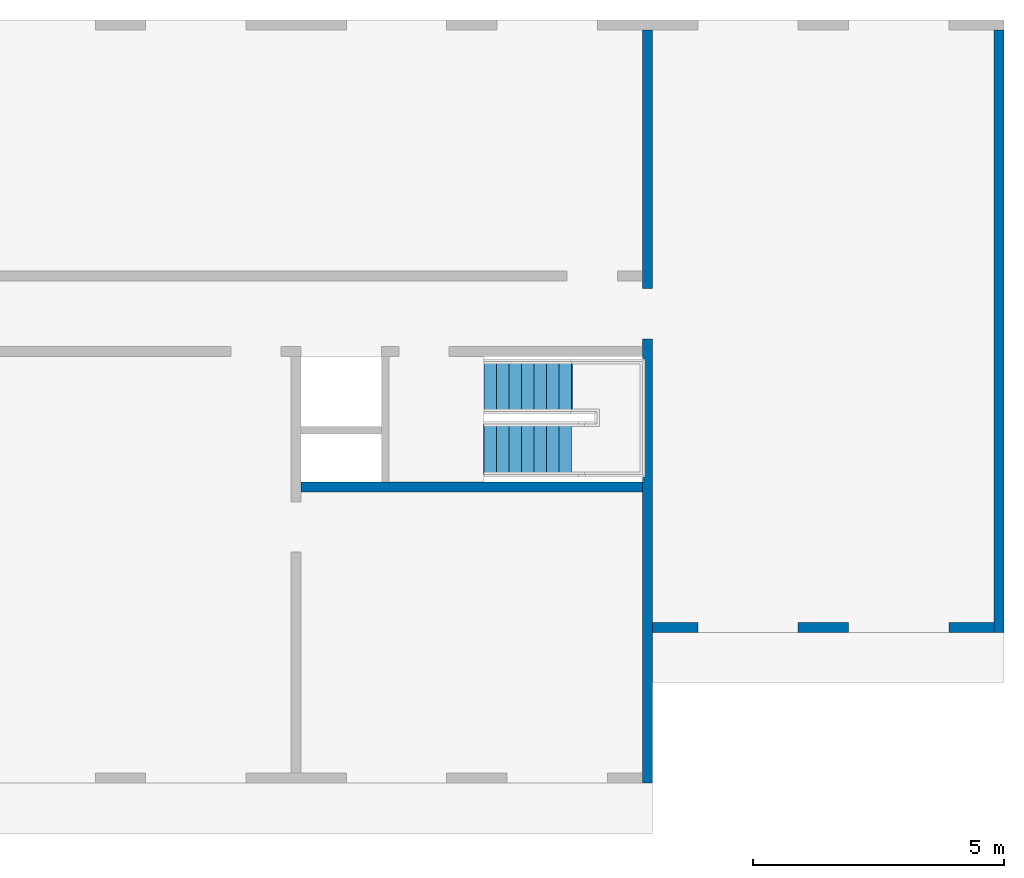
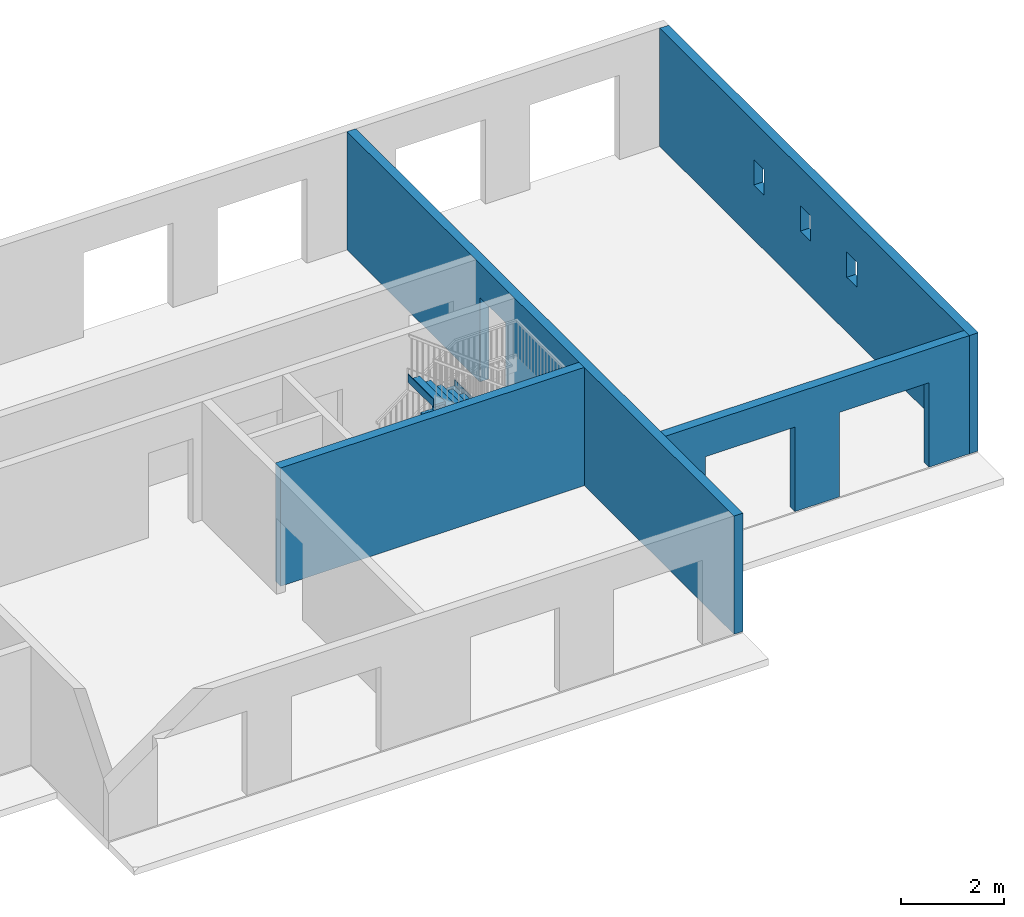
# One storey, part 2 of 3: 4 walls, 2 stair flights, 6 openings, 1 element without a shape of its own.
"""IFC2X3 building model written with IfcOpenShell, lengths in metres."""

from ifc_helpers import new_model, entity, si_unit, converted_unit, derived_unit, direction, frame, frame_2d, origin, origin_2d_with_axis, place, context, subcontext, project, spatial, rectangle, extrude, material, layer, layer_set, layer_usage, type_object, element, aggregate, save


model = new_model("IFC2X3")

# Units and contexts
model_context = context("Model", 3, precision=1e-05, world=origin(), true_north=direction((6.12303176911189e-17, 1.0)))
body_context = subcontext(model_context, "Body", "Model", "MODEL_VIEW")
ifc_project = project(units=[si_unit("LENGTHUNIT", "METRE"), si_unit("AREAUNIT", "SQUARE_METRE"), si_unit("VOLUMEUNIT", "CUBIC_METRE"), converted_unit("PLANEANGLEUNIT", "DEGREE", entity("IfcRatioMeasure", 0.0174532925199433), si_unit("PLANEANGLEUNIT", "RADIAN"), dimensions=[0, 0, 0, 0, 0, 0, 0]), si_unit("MASSUNIT", "GRAM", prefix="KILO"), derived_unit("MASSDENSITYUNIT", [(si_unit("MASSUNIT", "GRAM", prefix="KILO"), 1), (si_unit("LENGTHUNIT", "METRE"), -3)]), si_unit("TIMEUNIT", "SECOND"), si_unit("FREQUENCYUNIT", "HERTZ"), si_unit("THERMODYNAMICTEMPERATUREUNIT", "DEGREE_CELSIUS"), derived_unit("THERMALTRANSMITTANCEUNIT", [(si_unit("MASSUNIT", "GRAM", prefix="KILO"), 1), (si_unit("THERMODYNAMICTEMPERATUREUNIT", "KELVIN"), -1), (si_unit("TIMEUNIT", "SECOND"), -3)]), derived_unit("VOLUMETRICFLOWRATEUNIT", [(si_unit("LENGTHUNIT", "METRE"), 3), (si_unit("TIMEUNIT", "SECOND"), -1)]), si_unit("ELECTRICCURRENTUNIT", "AMPERE"), si_unit("ELECTRICVOLTAGEUNIT", "VOLT"), si_unit("POWERUNIT", "WATT"), si_unit("FORCEUNIT", "NEWTON"), si_unit("ILLUMINANCEUNIT", "LUX"), si_unit("LUMINOUSFLUXUNIT", "LUMEN"), si_unit("LUMINOUSINTENSITYUNIT", "CANDELA"), derived_unit("USERDEFINED", [(si_unit("MASSUNIT", "GRAM", prefix="KILO"), -1), (si_unit("LENGTHUNIT", "METRE"), -2), (si_unit("TIMEUNIT", "SECOND"), 3), (si_unit("LUMINOUSFLUXUNIT", "LUMEN"), 1)]), derived_unit("LINEARVELOCITYUNIT", [(si_unit("LENGTHUNIT", "METRE"), 1), (si_unit("TIMEUNIT", "SECOND"), -1)]), si_unit("PRESSUREUNIT", "PASCAL"), derived_unit("USERDEFINED", [(si_unit("LENGTHUNIT", "METRE"), -2), (si_unit("MASSUNIT", "GRAM", prefix="KILO"), 1), (si_unit("TIMEUNIT", "SECOND"), -2)])], contexts=[model_context])

# Site, building, storey
site_placement = place(None, origin())
site = spatial("IfcSite", under=ifc_project, at=site_placement, Name="Default", CompositionType="ELEMENT")
building_placement = place(site_placement, origin())
building = spatial("IfcBuilding", under=site, at=building_placement, CompositionType="ELEMENT")
storey_placement = place(building_placement, frame((0.0, 0.0, 3.0)))
storey = spatial("IfcBuildingStorey", under=building, at=storey_placement, Name="R+1", CompositionType="ELEMENT", Elevation=2.99999999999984)

# Wall, openings
ifc_material = material(Name="Béton - Coulé sur place - Béton20")
ifc_layer = layer(ifc_material, 0.2)
ifc_layer_set = layer_set([ifc_layer], Name="Mur de base:Générique - 200 mm")
ifc_layer_usage_1 = layer_usage(ifc_layer_set, "AXIS2", "NEGATIVE", 0.1)
wall_type = type_object("IfcWallType", Name="Mur de base:Générique - 200 mm", PredefinedType="STANDARD", material=ifc_layer_set)
wall_1_placement = place(storey_placement, frame((15.7926639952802, 8.86181014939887, 0.200000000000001), z_axis=(0.0, 0.0, 1.0), x_axis=(0.0, -1.0, 0.0)))
wall_1 = element("IfcWallStandardCase", 1, at=wall_1_placement, inside=storey, type_object=wall_type, material=ifc_layer_usage_1, Name="Mur de base:Générique - 200 mm", ObjectType="Mur de base:Générique - 200 mm:1044", context=body_context, shape_type="SweptSolid", body=[
    extrude(rectangle(XDim=12.0, YDim=0.200000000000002, at=frame_2d((6.0, 0.0), x_axis=(-1.0, 0.0))), origin(), (0.0, 0.0, 1.0), 2.80000000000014),
])
opening_1_placement = place(wall_1_placement, frame((8.86181014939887, -15.7926639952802, -0.200000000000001), z_axis=(0.0, 0.0, 1.0), x_axis=(0.0, 1.0, 0.0)))
element("IfcOpeningElement", 2, at=opening_1_placement, cuts=wall_1, Name="Mur de base:Générique - 200 mm", ObjectType="Opening", context=body_context, shape_type="SweptSolid", body=[
    extrude(rectangle(XDim=0.6, YDim=0.4, at=frame_2d((0.0, 0.0), x_axis=(0.0, 1.0))), frame((14.1686639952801, 3.21181014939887, 1.8), z_axis=(1.0, 0.0, 0.0), x_axis=(0.0, -1.0, 0.0)), (0.0, 0.0, 1.0), 3.048),
])
opening_2_placement = place(wall_1_placement, frame((8.86181014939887, -15.7926639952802, -0.200000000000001), z_axis=(0.0, 0.0, 1.0), x_axis=(0.0, 1.0, 0.0)))
element("IfcOpeningElement", 3, at=opening_2_placement, cuts=wall_1, Name="Mur de base:Générique - 200 mm", ObjectType="Opening", context=body_context, shape_type="SweptSolid", body=[
    extrude(rectangle(XDim=0.6, YDim=0.400000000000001, at=frame_2d((-8.04911692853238e-16, 0.0), x_axis=(0.0, 1.0))), frame((14.1686639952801, 5.01181014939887, 1.8), z_axis=(1.0, 0.0, 0.0), x_axis=(0.0, -1.0, 0.0)), (0.0, 0.0, 1.0), 3.048),
])
opening_3_placement = place(wall_1_placement, frame((8.86181014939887, -15.7926639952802, -0.200000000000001), z_axis=(0.0, 0.0, 1.0), x_axis=(0.0, 1.0, 0.0)))
element("IfcOpeningElement", 4, at=opening_3_placement, cuts=wall_1, Name="Mur de base:Générique - 200 mm", ObjectType="Opening", context=body_context, shape_type="SweptSolid", body=[
    extrude(rectangle(XDim=0.6, YDim=0.4, at=frame_2d((-6.93889390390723e-17, 0.0), x_axis=(0.0, 1.0))), frame((14.1686639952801, 1.41181014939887, 1.8), z_axis=(1.0, 0.0, 0.0), x_axis=(0.0, -1.0, 0.0)), (0.0, 0.0, 1.0), 3.048),
])

ifc_layer_usage_2 = layer_usage(ifc_layer_set, "AXIS2", "NEGATIVE", 0.1)
wall_2_placement = place(storey_placement, frame((15.6926639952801, -3.03818985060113, 0.200000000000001), z_axis=(0.0, 0.0, 1.0), x_axis=(-1.0, 0.0, 0.0)))
wall_2 = element("IfcWallStandardCase", 5, at=wall_2_placement, inside=storey, type_object=wall_type, material=ifc_layer_usage_2, Name="Mur de base:Générique - 200 mm", ObjectType="Mur de base:Générique - 200 mm:1044", context=body_context, shape_type="SweptSolid", body=[
    extrude(rectangle(XDim=6.8, YDim=0.2, at=frame_2d((3.4, 2.22044604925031e-16), x_axis=(-1.0, 0.0))), origin(), (0.0, 0.0, 1.0), 2.80000000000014),
])
opening_4_placement = place(wall_2_placement, frame((15.6926639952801, -3.03818985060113, -0.200000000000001), z_axis=(0.0, 0.0, 1.0), x_axis=(-1.0, 0.0, 0.0)))
element("IfcOpeningElement", 6, at=opening_4_placement, cuts=wall_2, Name="Mur de base:Générique - 200 mm", ObjectType="Opening", context=body_context, shape_type="SweptSolid", body=[
    extrude(rectangle(XDim=2.0, YDim=2.0, at=frame_2d((0.0, -2.22044604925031e-16), x_axis=(0.0, 1.0))), frame((10.7926639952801, -1.41418985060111, 1.2), z_axis=(0.0, -1.0, 0.0), x_axis=(-1.0, 0.0, 0.0)), (0.0, 0.0, 1.0), 3.048),
])
opening_5_placement = place(wall_2_placement, frame((15.6926639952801, -3.03818985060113, -0.200000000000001), z_axis=(0.0, 0.0, 1.0), x_axis=(-1.0, 0.0, 0.0)))
element("IfcOpeningElement", 7, at=opening_5_placement, cuts=wall_2, Name="Mur de base:Générique - 200 mm", ObjectType="Opening", context=body_context, shape_type="SweptSolid", body=[
    extrude(rectangle(XDim=2.0, YDim=2.0, at=frame_2d((0.0, -2.22044604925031e-16), x_axis=(0.0, 1.0))), frame((13.7926639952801, -1.41418985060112, 1.2), z_axis=(0.0, -1.0, 0.0), x_axis=(-1.0, 0.0, 0.0)), (0.0, 0.0, 1.0), 3.048),
])

# Wall, opening
ifc_layer_usage_3 = layer_usage(ifc_layer_set, "AXIS2", "NEGATIVE", 0.1)
wall_3_placement = place(storey_placement, frame((8.79266399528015, 8.86181014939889, 0.200000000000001), z_axis=(0.0, 0.0, 1.0), x_axis=(0.0, -1.0, 0.0)))
wall_3 = element("IfcWallStandardCase", 8, at=wall_3_placement, inside=storey, type_object=wall_type, material=ifc_layer_usage_3, Name="Mur de base:Générique - 200 mm", ObjectType="Mur de base:Générique - 200 mm:1044", context=body_context, shape_type="SweptSolid", body=[
    extrude(rectangle(XDim=15.0, YDim=0.2, at=frame_2d((7.5, 0.0), x_axis=(-1.0, 0.0))), origin(), (0.0, 0.0, 1.0), 2.80000000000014),
])
opening_6_placement = place(wall_3_placement, frame((8.86181014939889, -8.79266399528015, -0.200000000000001), z_axis=(0.0, 0.0, 1.0), x_axis=(0.0, 1.0, 0.0)))
element("IfcOpeningElement", 9, at=opening_6_placement, cuts=wall_3, Name="Mur de base:Générique - 200 mm", ObjectType="Opening", context=body_context, shape_type="SweptSolid", body=[
    extrude(rectangle(XDim=2.0, YDim=1.0, at=frame_2d((-2.4980018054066e-16, -2.22044604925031e-16), x_axis=(0.0, 1.0))), frame((7.16866399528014, 3.2118101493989, 1.2), z_axis=(1.0, 0.0, 0.0), x_axis=(0.0, -1.0, 0.0)), (0.0, 0.0, 1.0), 3.048),
])

# Wall
ifc_layer_usage_4 = layer_usage(ifc_layer_set, "AXIS2", "NEGATIVE", 0.1)
wall_4_placement = place(storey_placement, frame((1.89266399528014, -0.238189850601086, 0.199999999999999)))
element("IfcWallStandardCase", 10, at=wall_4_placement, inside=storey, type_object=wall_type, material=ifc_layer_usage_4, Name="Mur de base:Générique - 200 mm", ObjectType="Mur de base:Générique - 200 mm:1044", context=body_context, shape_type="SweptSolid", body=[
    extrude(rectangle(XDim=6.8, YDim=0.2, at=frame_2d((3.4, 2.08166817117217e-17), x_axis=(-1.0, 0.0))), origin(), (0.0, 0.0, 1.0), 2.80000000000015),
])

# Stair, stair flights
stair_placement = place(storey_placement, origin())
stair = element("IfcStair", 11, at=stair_placement, inside=storey, Name="Escalier assemblé:Escalier", ObjectType="Escalier assemblé:Contremarche 190 mm max marche 250\xa0mm", ShapeType="NOTDEFINED")
stair_flight_1_placement = place(stair_placement, origin())
stair_flight_1 = element("IfcStairFlight", 12, at=stair_flight_1_placement, Name="Escalier assemblé:Escalier:468584 Run 1", ObjectType="Escalier assemblé:Contremarche 190 mm max marche 250\xa0mm", NumberOfRiser=8, NumberOfTreads=7, RiserHeight=0.617569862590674, TreadLength=0.820209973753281, context=body_context, shape_type="SweptSolid", body=[
    extrude(rectangle(XDim=1.0, YDim=0.0125000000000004, at=frame_2d((0.0, -5.41233724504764e-16), x_axis=(1.0, 0.0))), frame((5.53891399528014, 1.76181014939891, 0.176470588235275), z_axis=(0.0, 0.0, 1.0), x_axis=(0.0, 1.0, 0.0)), (0.0, 0.0, 1.0), 0.138235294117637),
    extrude(rectangle(XDim=0.249999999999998, YDim=1.0, at=frame_2d((-5.41233724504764e-16, 1.66533453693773e-16), x_axis=(1.0, 0.0))), frame((5.65766399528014, 1.76181014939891, 0.314705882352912), z_axis=(0.0, 0.0, 1.0), x_axis=(-1.0, 0.0, 0.0)), (0.0, 0.0, 1.0), 0.05),
    extrude(rectangle(XDim=1.0, YDim=0.0125000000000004, at=frame_2d((0.0, -5.41233724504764e-16), x_axis=(1.0, 0.0))), frame((5.78891399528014, 1.76181014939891, 0.314705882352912), z_axis=(0.0, 0.0, 1.0), x_axis=(0.0, 1.0, 0.0)), (0.0, 0.0, 1.0), 0.188235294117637),
    extrude(rectangle(XDim=0.250000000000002, YDim=1.0, at=frame_2d((0.0, 1.66533453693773e-16), x_axis=(1.0, 0.0))), frame((5.90766399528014, 1.76181014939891, 0.50294117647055), z_axis=(0.0, 0.0, 1.0), x_axis=(-1.0, 0.0, 0.0)), (0.0, 0.0, 1.0), 0.05),
    extrude(rectangle(XDim=1.0, YDim=0.0125000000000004, at=frame_2d((0.0, -5.41233724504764e-16), x_axis=(1.0, 0.0))), frame((6.03891399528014, 1.76181014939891, 0.50294117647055), z_axis=(0.0, 0.0, 1.0), x_axis=(0.0, 1.0, 0.0)), (0.0, 0.0, 1.0), 0.188235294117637),
    extrude(rectangle(XDim=0.250000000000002, YDim=1.0, at=frame_2d((0.0, -1.66533453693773e-16), x_axis=(1.0, 0.0))), frame((6.15766399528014, 1.76181014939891, 0.691176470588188), z_axis=(0.0, 0.0, 1.0), x_axis=(-1.0, 0.0, 0.0)), (0.0, 0.0, 1.0), 0.05),
    extrude(rectangle(XDim=1.0, YDim=0.0125000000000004, at=frame_2d((0.0, -5.41233724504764e-16), x_axis=(1.0, 0.0))), frame((6.28891399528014, 1.7618101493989, 0.691176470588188), z_axis=(0.0, 0.0, 1.0), x_axis=(0.0, 1.0, 0.0)), (0.0, 0.0, 1.0), 0.188235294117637),
    extrude(rectangle(XDim=0.250000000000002, YDim=1.0, at=frame_2d((0.0, 1.66533453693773e-16), x_axis=(1.0, 0.0))), frame((6.40766399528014, 1.7618101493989, 0.879411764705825), z_axis=(0.0, 0.0, 1.0), x_axis=(-1.0, 0.0, 0.0)), (0.0, 0.0, 1.0), 0.05),
    extrude(rectangle(XDim=1.0, YDim=0.0125000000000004, at=frame_2d((0.0, -5.41233724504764e-16), x_axis=(1.0, 0.0))), frame((6.53891399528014, 1.7618101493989, 0.879411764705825), z_axis=(0.0, 0.0, 1.0), x_axis=(0.0, 1.0, 0.0)), (0.0, 0.0, 1.0), 0.188235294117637),
    extrude(rectangle(XDim=0.250000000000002, YDim=1.0, at=frame_2d((0.0, -1.66533453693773e-16), x_axis=(1.0, 0.0))), frame((6.65766399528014, 1.7618101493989, 1.06764705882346), z_axis=(0.0, 0.0, 1.0), x_axis=(-1.0, 0.0, 0.0)), (0.0, 0.0, 1.0), 0.05),
    extrude(rectangle(XDim=1.0, YDim=0.0125000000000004, at=frame_2d((0.0, 5.41233724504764e-16), x_axis=(1.0, 0.0))), frame((6.78891399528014, 1.7618101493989, 1.06764705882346), z_axis=(0.0, 0.0, 1.0), x_axis=(0.0, 1.0, 0.0)), (0.0, 0.0, 1.0), 0.188235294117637),
    extrude(rectangle(XDim=0.250000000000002, YDim=1.0, at=frame_2d((0.0, 1.66533453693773e-16), x_axis=(1.0, 0.0))), frame((6.90766399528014, 1.7618101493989, 1.2558823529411), z_axis=(0.0, 0.0, 1.0), x_axis=(-1.0, 0.0, 0.0)), (0.0, 0.0, 1.0), 0.05),
    extrude(rectangle(XDim=1.0, YDim=0.0125000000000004, at=frame_2d((0.0, -5.41233724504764e-16), x_axis=(1.0, 0.0))), frame((7.03891399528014, 1.7618101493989, 1.2558823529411), z_axis=(0.0, 0.0, 1.0), x_axis=(0.0, 1.0, 0.0)), (0.0, 0.0, 1.0), 0.188235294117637),
    extrude(rectangle(XDim=0.250000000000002, YDim=1.0, at=frame_2d((-1.08246744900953e-15, -1.66533453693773e-16), x_axis=(1.0, 0.0))), frame((7.15766399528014, 1.7618101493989, 1.44411764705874), z_axis=(0.0, 0.0, 1.0), x_axis=(-1.0, 0.0, 0.0)), (0.0, 0.0, 1.0), 0.05),
    extrude(rectangle(XDim=1.0, YDim=0.0125000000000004, at=origin_2d_with_axis()), frame((7.28891399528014, 1.7618101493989, 1.44411764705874), z_axis=(0.0, 0.0, 1.0), x_axis=(0.0, 1.0, 0.0)), (0.0, 0.0, 1.0), 0.188235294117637),
])
stair_flight_2_placement = place(stair_placement, origin())
stair_flight_2 = element("IfcStairFlight", 13, at=stair_flight_2_placement, Name="Escalier assemblé:Escalier:468584 Run 2", ObjectType="Escalier assemblé:Contremarche 190 mm max marche 250\xa0mm", NumberOfRiser=8, NumberOfTreads=7, RiserHeight=0.617569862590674, TreadLength=0.820209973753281, context=body_context, shape_type="SweptSolid", body=[
    extrude(rectangle(XDim=1.0, YDim=0.0125000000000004, at=frame_2d((0.0, -1.08290112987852e-15), x_axis=(1.0, 0.0))), frame((7.27641399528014, 0.511810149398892, 1.63235294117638), z_axis=(0.0, 0.0, 1.0), x_axis=(0.0, -1.0, 0.0)), (0.0, 0.0, 1.0), 0.188235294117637),
    extrude(rectangle(XDim=0.249999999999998, YDim=1.0, at=frame_2d((5.41233724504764e-16, -2.77555756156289e-17), x_axis=(1.0, 0.0))), frame((7.15766399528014, 0.511810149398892, 1.82058823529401)), (0.0, 0.0, 1.0), 0.05),
    extrude(rectangle(XDim=1.0, YDim=0.0125000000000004, at=origin_2d_with_axis()), frame((7.02641399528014, 0.511810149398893, 1.82058823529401), z_axis=(0.0, 0.0, 1.0), x_axis=(0.0, -1.0, 0.0)), (0.0, 0.0, 1.0), 0.188235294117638),
    extrude(rectangle(XDim=0.250000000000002, YDim=1.0, at=frame_2d((5.41233724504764e-16, -2.77555756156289e-17), x_axis=(1.0, 0.0))), frame((6.90766399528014, 0.511810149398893, 2.00882352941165)), (0.0, 0.0, 1.0), 0.0499999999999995),
    extrude(rectangle(XDim=1.0, YDim=0.0125000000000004, at=frame_2d((0.0, 1.08290112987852e-15), x_axis=(1.0, 0.0))), frame((6.77641399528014, 0.511810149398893, 2.00882352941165), z_axis=(0.0, 0.0, 1.0), x_axis=(0.0, -1.0, 0.0)), (0.0, 0.0, 1.0), 0.188235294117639),
    extrude(rectangle(XDim=0.250000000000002, YDim=1.0, at=frame_2d((-5.41233724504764e-16, 2.77555756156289e-17), x_axis=(1.0, 0.0))), frame((6.65766399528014, 0.511810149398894, 2.19705882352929)), (0.0, 0.0, 1.0), 0.0499999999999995),
    extrude(rectangle(XDim=1.0, YDim=0.0125000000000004, at=origin_2d_with_axis()), frame((6.52641399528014, 0.511810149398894, 2.19705882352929), z_axis=(0.0, 0.0, 1.0), x_axis=(0.0, -1.0, 0.0)), (0.0, 0.0, 1.0), 0.188235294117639),
    extrude(rectangle(XDim=0.250000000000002, YDim=1.0, at=frame_2d((-5.41233724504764e-16, 2.77555756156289e-17), x_axis=(1.0, 0.0))), frame((6.40766399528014, 0.511810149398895, 2.38529411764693)), (0.0, 0.0, 1.0), 0.0499999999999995),
    extrude(rectangle(XDim=1.0, YDim=0.0125000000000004, at=origin_2d_with_axis()), frame((6.27641399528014, 0.511810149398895, 2.38529411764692), z_axis=(0.0, 0.0, 1.0), x_axis=(0.0, -1.0, 0.0)), (0.0, 0.0, 1.0), 0.188235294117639),
    extrude(rectangle(XDim=0.250000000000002, YDim=1.0, at=frame_2d((-5.41233724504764e-16, 2.77555756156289e-17), x_axis=(1.0, 0.0))), frame((6.15766399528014, 0.511810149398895, 2.57352941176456)), (0.0, 0.0, 1.0), 0.0499999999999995),
    extrude(rectangle(XDim=1.0, YDim=0.0125000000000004, at=origin_2d_with_axis()), frame((6.02641399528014, 0.511810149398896, 2.57352941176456), z_axis=(0.0, 0.0, 1.0), x_axis=(0.0, -1.0, 0.0)), (0.0, 0.0, 1.0), 0.188235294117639),
    extrude(rectangle(XDim=0.250000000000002, YDim=1.0, at=frame_2d((-5.41233724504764e-16, 0.0), x_axis=(1.0, 0.0))), frame((5.90766399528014, 0.511810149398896, 2.7617647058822)), (0.0, 0.0, 1.0), 0.0499999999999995),
    extrude(rectangle(XDim=1.0, YDim=0.0125000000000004, at=origin_2d_with_axis()), frame((5.77641399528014, 0.511810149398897, 2.7617647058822), z_axis=(0.0, 0.0, 1.0), x_axis=(0.0, -1.0, 0.0)), (0.0, 0.0, 1.0), 0.188235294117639),
    extrude(rectangle(XDim=0.250000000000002, YDim=1.0, at=frame_2d((-5.41233724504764e-16, 0.0), x_axis=(1.0, 0.0))), frame((5.65766399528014, 0.511810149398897, 2.94999999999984)), (0.0, 0.0, 1.0), 0.0499999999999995),
    extrude(rectangle(XDim=1.0, YDim=0.0125000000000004, at=frame_2d((0.0, -1.08290112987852e-15), x_axis=(1.0, 0.0))), frame((5.52641399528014, 0.511810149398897, 2.94999999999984), z_axis=(0.0, 0.0, 1.0), x_axis=(0.0, -1.0, 0.0)), (0.0, 0.0, 1.0), 0.188235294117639),
])
aggregate(stair, [stair_flight_1, stair_flight_2])

save(model, "model.ifc")
